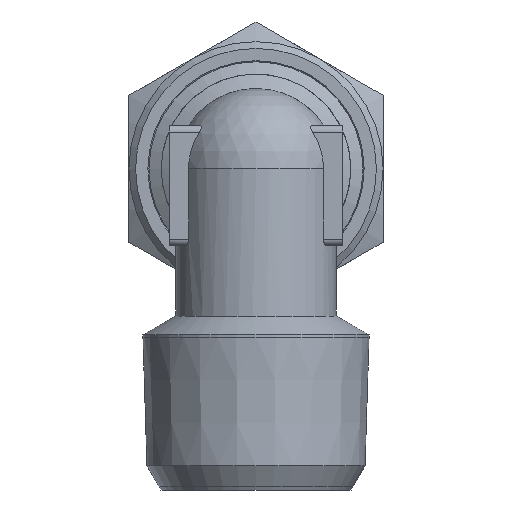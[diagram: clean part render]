
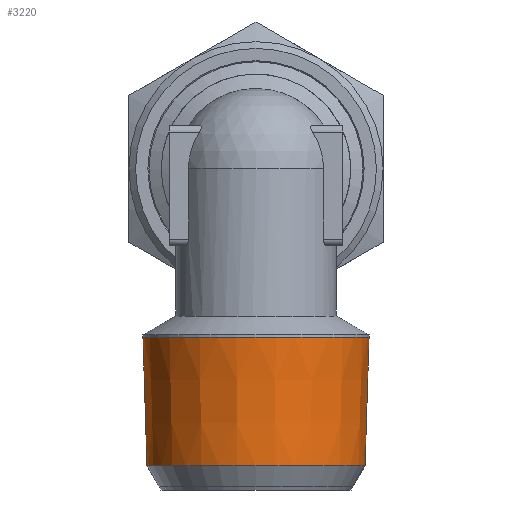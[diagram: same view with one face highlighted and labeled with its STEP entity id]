
A CAD part, left-side view. The second image highlights one B-rep face of the part: STEP entity #3220.
In plain terms, the highlighted conical face has half-angle 1.79 degrees and reference radius 8.447 mm.
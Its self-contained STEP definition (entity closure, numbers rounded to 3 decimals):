
#3220=ADVANCED_FACE('', (#3230,#3240), #3250, .T.);
#10670=AXIS2_PLACEMENT_3D('Ax2Pl3d', #10680, #10690, #10700);
#10710=AXIS2_PLACEMENT_3D('Ax2Pl3d', #10720, #10730, #10740);
#10750=AXIS2_PLACEMENT_3D('Ax2Pl3d', #10760, #10770, #10780);
#10680=CARTESIAN_POINT('HicPkt', (23.448,15.398,
24.983));
#10720=CARTESIAN_POINT('HicPkt', (23.448,15.398,
15.383));
#54370=CARTESIAN_POINT('', (23.448,7.251,15.383));
#10760=CARTESIAN_POINT('HicPkt', (23.448,15.398,
24.983));
#54380=CARTESIAN_POINT('', (23.448,23.845,24.983));
#55150=CIRCLE('Circle', #10710, 8.147);
#55160=CIRCLE('Circle', #10750, 8.447);
#3250=CONICAL_SURFACE('Kegel', #10670, 8.447, 
0.031);
#10690=DIRECTION('Axis', (0.,0.,1.));
#10700=DIRECTION('RefDirection', (1.,0.,-0.));
#10730=DIRECTION('Axis', (0.,0.,-1.));
#10740=DIRECTION('RefDirection', (-1.,-0.,0.));
#10770=DIRECTION('Axis', (0.,0.,1.));
#10780=DIRECTION('RefDirection', (1.,0.,-0.));
#64730=EDGE_CURVE('', #64740, #64740, #55150, .T.);
#64750=EDGE_CURVE('', #64760, #64760, #55160, .T.);
#69700=EDGE_LOOP('Edge_loop', (#69710));
#69720=EDGE_LOOP('Edge_loop', (#69730));
#3240=FACE_BOUND('', #69720, .T.);
#3230=FACE_OUTER_BOUND('Face_outer_bound', #69700, .T.);
#69710=ORIENTED_EDGE('', *, *, #64730, .F.);
#69730=ORIENTED_EDGE('', *, *, #64750, .F.);
#64740=VERTEX_POINT('', #54370);
#64760=VERTEX_POINT('', #54380);
